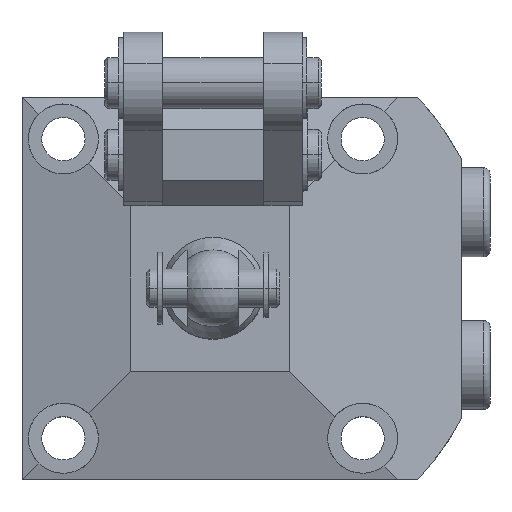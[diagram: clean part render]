
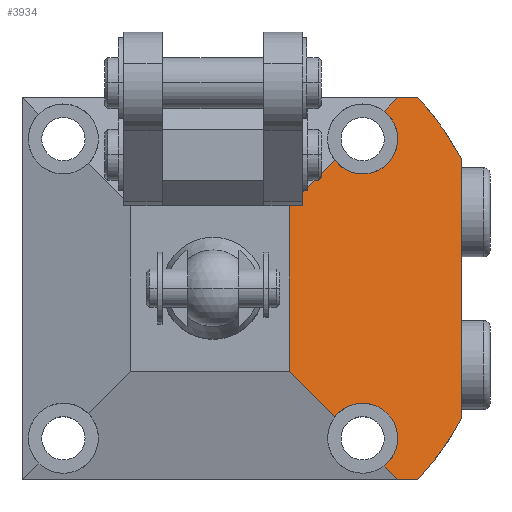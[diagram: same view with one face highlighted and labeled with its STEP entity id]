
A CAD part, top view. The second image highlights one B-rep face of the part: STEP entity #3934.
In plain terms, the highlighted planar face has unit normal (0.259, 0, 0.966).
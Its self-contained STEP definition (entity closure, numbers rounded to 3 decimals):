
#102 = CARTESIAN_POINT ( 'NONE',  ( 19.143, 20.143, 65.086 ) ) ;
#174 = CARTESIAN_POINT ( 'NONE',  ( 26.857, -27.857, 63.019 ) ) ;
#240 = VECTOR ( 'NONE', #4267, 1000. ) ;
#319 = VERTEX_POINT ( 'NONE', #4156 ) ;
#330 = VECTOR ( 'NONE', #992, 1000. ) ;
#368 = CARTESIAN_POINT ( 'NONE',  ( 23.007, -15.128, 64.051 ) ) ;
#545 = CARTESIAN_POINT ( 'NONE',  ( 39., 30.001, 59.765 ) ) ;
#558 = LINE ( 'NONE', #5487, #3669 ) ;
#561 = CARTESIAN_POINT ( 'NONE',  ( 39., 30.001, 59.765 ) ) ;
#569 = DIRECTION ( 'NONE',  ( -0.695, 0.695, 0.186 ) ) ;
#570 = CARTESIAN_POINT ( 'NONE',  ( 37.169, 23.878, 60.256 ) ) ;
#597 = LINE ( 'NONE', #5565, #7040 ) ;
#653 = EDGE_CURVE ( 'NONE', #319, #3698, #674, .T. ) ;
#674 =( BOUNDED_CURVE ( )  B_SPLINE_CURVE ( 3, ( #7845, #368, #2225, #5960 ),
 .UNSPECIFIED., .F., .F. ) 
 B_SPLINE_CURVE_WITH_KNOTS ( ( 4, 4 ),
 ( 0.656, 3.142 ),
 .UNSPECIFIED. ) 
 CURVE ( )  GEOMETRIC_REPRESENTATION_ITEM ( )  RATIONAL_B_SPLINE_CURVE ( ( 1., 0.548, 0.548, 1. ) ) 
 REPRESENTATION_ITEM ( '' )  );
#677 = EDGE_CURVE ( 'NONE', #2290, #6574, #6582, .T. ) ;
#792 = VERTEX_POINT ( 'NONE', #5168 ) ;
#807 = EDGE_CURVE ( 'NONE', #1126, #4416, #2494, .T. ) ;
#990 = AXIS2_PLACEMENT_3D ( 'NONE', #545, #6152, #2417 ) ;
#992 = DIRECTION ( 'NONE',  ( -0.966, 0., 0.259 ) ) ;
#1007 = VERTEX_POINT ( 'NONE', #6715 ) ;
#1033 = ORIENTED_EDGE ( 'NONE', *, *, #5558, .T. ) ;
#1075 = ORIENTED_EDGE ( 'NONE', *, *, #2785, .T. ) ;
#1126 = VERTEX_POINT ( 'NONE', #7938 ) ;
#1241 = VECTOR ( 'NONE', #3735, 1000. ) ;
#1327 = ORIENTED_EDGE ( 'NONE', *, *, #6503, .T. ) ;
#1340 = CARTESIAN_POINT ( 'NONE',  ( 29., -30., 62.445 ) ) ;
#1418 = CARTESIAN_POINT ( 'NONE',  ( 32.187, -30., 61.591 ) ) ;
#1518 = VERTEX_POINT ( 'NONE', #1798 ) ;
#1583 = VECTOR ( 'NONE', #4983, 1000. ) ;
#1613 = ORIENTED_EDGE ( 'NONE', *, *, #6916, .F. ) ;
#1798 = CARTESIAN_POINT ( 'NONE',  ( 19.143, 20.143, 65.086 ) ) ;
#1836 = FACE_OUTER_BOUND ( 'NONE', #5481, .T. ) ;
#1896 = ORIENTED_EDGE ( 'NONE', *, *, #7749, .T. ) ;
#1973 = LINE ( 'NONE', #6821, #6762 ) ;
#2031 = CARTESIAN_POINT ( 'NONE',  ( 37.169, -23.878, 60.256 ) ) ;
#2097 = EDGE_CURVE ( 'NONE', #319, #1007, #1973, .T. ) ;
#2135 = EDGE_CURVE ( 'NONE', #6574, #7476, #6564, .T. ) ;
#2225 = CARTESIAN_POINT ( 'NONE',  ( 29., -17.169, 62.445 ) ) ;
#2290 = VERTEX_POINT ( 'NONE', #6390 ) ;
#2307 = ORIENTED_EDGE ( 'NONE', *, *, #6179, .T. ) ;
#2333 = DIRECTION ( 'NONE',  ( -0.695, -0.695, 0.186 ) ) ;
#2417 = DIRECTION ( 'NONE',  ( -0.966, 0., 0.259 ) ) ;
#2494 =( BOUNDED_CURVE ( )  B_SPLINE_CURVE ( 3, ( #1418, #4510, #2031, #3874 ),
 .UNSPECIFIED., .F., .F. ) 
 B_SPLINE_CURVE_WITH_KNOTS ( ( 4, 4 ),
 ( 2.391, 2.66 ),
 .UNSPECIFIED. ) 
 CURVE ( )  GEOMETRIC_REPRESENTATION_ITEM ( )  RATIONAL_B_SPLINE_CURVE ( ( 1., 0.994, 0.994, 1. ) ) 
 REPRESENTATION_ITEM ( '' )  );
#2601 = CARTESIAN_POINT ( 'NONE',  ( 29., 17.169, 62.445 ) ) ;
#2650 = CARTESIAN_POINT ( 'NONE',  ( 29., 23.5, 62.445 ) ) ;
#2661 = CARTESIAN_POINT ( 'NONE',  ( 29., -23.5, 62.445 ) ) ;
#2785 = EDGE_CURVE ( 'NONE', #5172, #1007, #597, .T. ) ;
#2881 = ORIENTED_EDGE ( 'NONE', *, *, #807, .T. ) ;
#2971 = CARTESIAN_POINT ( 'NONE',  ( 34.174, 35.174, 61.059 ) ) ;
#3041 = CARTESIAN_POINT ( 'NONE',  ( 26.857, 27.857, 63.019 ) ) ;
#3157 = ORIENTED_EDGE ( 'NONE', *, *, #677, .T. ) ;
#3172 = ORIENTED_EDGE ( 'NONE', *, *, #5715, .F. ) ;
#3208 = CARTESIAN_POINT ( 'NONE',  ( 29., 23.5, 62.445 ) ) ;
#3346 =( BOUNDED_CURVE ( )  B_SPLINE_CURVE ( 3, ( #2661, #6386, #3894, #174 ),
 .UNSPECIFIED., .F., .F. ) 
 B_SPLINE_CURVE_WITH_KNOTS ( ( 4, 4 ),
 ( 3.142, 4.056 ),
 .UNSPECIFIED. ) 
 CURVE ( )  GEOMETRIC_REPRESENTATION_ITEM ( )  RATIONAL_B_SPLINE_CURVE ( ( 1., 0.932, 0.932, 1. ) ) 
 REPRESENTATION_ITEM ( '' )  );
#3467 = LINE ( 'NONE', #2971, #6416 ) ;
#3669 = VECTOR ( 'NONE', #4241, 1000. ) ;
#3693 = CARTESIAN_POINT ( 'NONE',  ( 32.187, 30., 61.591 ) ) ;
#3698 = VERTEX_POINT ( 'NONE', #5943 ) ;
#3735 = DIRECTION ( 'NONE',  ( -0.695, 0.695, 0.186 ) ) ;
#3753 = LINE ( 'NONE', #561, #240 ) ;
#3841 = CARTESIAN_POINT ( 'NONE',  ( 23.007, 15.128, 64.051 ) ) ;
#3874 = CARTESIAN_POINT ( 'NONE',  ( 39., -20.372, 59.765 ) ) ;
#3894 = CARTESIAN_POINT ( 'NONE',  ( 28.233, -26.796, 62.65 ) ) ;
#3934 = ADVANCED_FACE ( 'NONE', ( #1836 ), #4249, .F. ) ;
#3939 =( BOUNDED_CURVE ( )  B_SPLINE_CURVE ( 3, ( #5542, #570, #7449, #3693 ),
 .UNSPECIFIED., .F., .F. ) 
 B_SPLINE_CURVE_WITH_KNOTS ( ( 4, 4 ),
 ( 3.623, 3.892 ),
 .UNSPECIFIED. ) 
 CURVE ( )  GEOMETRIC_REPRESENTATION_ITEM ( )  RATIONAL_B_SPLINE_CURVE ( ( 1., 0.994, 0.994, 1. ) ) 
 REPRESENTATION_ITEM ( '' )  );
#3957 = EDGE_CURVE ( 'NONE', #7476, #7142, #7462, .T. ) ;
#4118 = VERTEX_POINT ( 'NONE', #1340 ) ;
#4156 = CARTESIAN_POINT ( 'NONE',  ( 19.143, -20.143, 65.086 ) ) ;
#4172 = CARTESIAN_POINT ( 'NONE',  ( 26.857, 27.857, 63.019 ) ) ;
#4241 = DIRECTION ( 'NONE',  ( 0.966, 0., -0.259 ) ) ;
#4249 = PLANE ( 'NONE',  #990 ) ;
#4267 = DIRECTION ( 'NONE',  ( 0., -1., 0. ) ) ;
#4270 = CARTESIAN_POINT ( 'NONE',  ( 29., 23.5, 62.445 ) ) ;
#4352 = CARTESIAN_POINT ( 'NONE',  ( 34.174, 35.174, 61.059 ) ) ;
#4358 = CARTESIAN_POINT ( 'NONE',  ( 25.033, -26.033, 63.508 ) ) ;
#4416 = VERTEX_POINT ( 'NONE', #5991 ) ;
#4510 = CARTESIAN_POINT ( 'NONE',  ( 34.884, -27.106, 60.868 ) ) ;
#4720 = ORIENTED_EDGE ( 'NONE', *, *, #2135, .T. ) ;
#4801 = VERTEX_POINT ( 'NONE', #5754 ) ;
#4857 = CARTESIAN_POINT ( 'NONE',  ( 12., 13., 67. ) ) ;
#4983 = DIRECTION ( 'NONE',  ( -0.695, -0.695, 0.186 ) ) ;
#5168 = CARTESIAN_POINT ( 'NONE',  ( 26.857, -27.857, 63.019 ) ) ;
#5172 = VERTEX_POINT ( 'NONE', #4857 ) ;
#5251 = EDGE_CURVE ( 'NONE', #4801, #2290, #3939, .T. ) ;
#5252 = CARTESIAN_POINT ( 'NONE',  ( 29., 30., 62.445 ) ) ;
#5481 = EDGE_LOOP ( 'NONE', ( #3157, #4720, #6395, #1896, #2307, #1075, #7807, #6162, #1327, #3172, #1033, #2881, #1613, #6598 ) ) ;
#5487 = CARTESIAN_POINT ( 'NONE',  ( 39., -30., 59.765 ) ) ;
#5542 = CARTESIAN_POINT ( 'NONE',  ( 39., 20.372, 59.765 ) ) ;
#5558 = EDGE_CURVE ( 'NONE', #4118, #1126, #558, .T. ) ;
#5565 = CARTESIAN_POINT ( 'NONE',  ( 12., 30.001, 67. ) ) ;
#5715 = EDGE_CURVE ( 'NONE', #4118, #792, #7875, .T. ) ;
#5754 = CARTESIAN_POINT ( 'NONE',  ( 39., 20.372, 59.765 ) ) ;
#5943 = CARTESIAN_POINT ( 'NONE',  ( 29., -23.5, 62.445 ) ) ;
#5960 = CARTESIAN_POINT ( 'NONE',  ( 29., -23.5, 62.445 ) ) ;
#5991 = CARTESIAN_POINT ( 'NONE',  ( 39., -20.372, 59.765 ) ) ;
#6152 = DIRECTION ( 'NONE',  ( -0.259, 0., -0.966 ) ) ;
#6162 = ORIENTED_EDGE ( 'NONE', *, *, #653, .T. ) ;
#6179 = EDGE_CURVE ( 'NONE', #1518, #5172, #3467, .T. ) ;
#6386 = CARTESIAN_POINT ( 'NONE',  ( 29., -25.237, 62.445 ) ) ;
#6390 = CARTESIAN_POINT ( 'NONE',  ( 32.187, 30., 61.591 ) ) ;
#6395 = ORIENTED_EDGE ( 'NONE', *, *, #3957, .T. ) ;
#6416 = VECTOR ( 'NONE', #2333, 1000. ) ;
#6503 = EDGE_CURVE ( 'NONE', #3698, #792, #3346, .T. ) ;
#6564 = LINE ( 'NONE', #4352, #1583 ) ;
#6574 = VERTEX_POINT ( 'NONE', #5252 ) ;
#6582 = LINE ( 'NONE', #7196, #330 ) ;
#6598 = ORIENTED_EDGE ( 'NONE', *, *, #5251, .T. ) ;
#6715 = CARTESIAN_POINT ( 'NONE',  ( 12., -13., 67. ) ) ;
#6762 = VECTOR ( 'NONE', #569, 1000. ) ;
#6795 = CARTESIAN_POINT ( 'NONE',  ( 28.233, 26.796, 62.65 ) ) ;
#6821 = CARTESIAN_POINT ( 'NONE',  ( 25.033, -26.033, 63.508 ) ) ;
#6916 = EDGE_CURVE ( 'NONE', #4801, #4416, #3753, .T. ) ;
#7040 = VECTOR ( 'NONE', #8069, 1000. ) ;
#7104 =( BOUNDED_CURVE ( )  B_SPLINE_CURVE ( 3, ( #3208, #2601, #3841, #102 ),
 .UNSPECIFIED., .F., .T. ) 
 B_SPLINE_CURVE_WITH_KNOTS ( ( 4, 4 ),
 ( 3.142, 5.627 ),
 .UNSPECIFIED. ) 
 CURVE ( )  GEOMETRIC_REPRESENTATION_ITEM ( )  RATIONAL_B_SPLINE_CURVE ( ( 1., 0.548, 0.548, 1. ) ) 
 REPRESENTATION_ITEM ( '' )  );
#7142 = VERTEX_POINT ( 'NONE', #2650 ) ;
#7196 = CARTESIAN_POINT ( 'NONE',  ( 39., 30., 59.765 ) ) ;
#7449 = CARTESIAN_POINT ( 'NONE',  ( 34.884, 27.106, 60.868 ) ) ;
#7462 =( BOUNDED_CURVE ( )  B_SPLINE_CURVE ( 3, ( #3041, #6795, #8050, #4270 ),
 .UNSPECIFIED., .F., .F. ) 
 B_SPLINE_CURVE_WITH_KNOTS ( ( 4, 4 ),
 ( 2.227, 3.142 ),
 .UNSPECIFIED. ) 
 CURVE ( )  GEOMETRIC_REPRESENTATION_ITEM ( )  RATIONAL_B_SPLINE_CURVE ( ( 1., 0.932, 0.932, 1. ) ) 
 REPRESENTATION_ITEM ( '' )  );
#7476 = VERTEX_POINT ( 'NONE', #4172 ) ;
#7749 = EDGE_CURVE ( 'NONE', #7142, #1518, #7104, .T. ) ;
#7807 = ORIENTED_EDGE ( 'NONE', *, *, #2097, .F. ) ;
#7845 = CARTESIAN_POINT ( 'NONE',  ( 19.143, -20.143, 65.086 ) ) ;
#7875 = LINE ( 'NONE', #4358, #1241 ) ;
#7938 = CARTESIAN_POINT ( 'NONE',  ( 32.187, -30., 61.591 ) ) ;
#8050 = CARTESIAN_POINT ( 'NONE',  ( 29., 25.237, 62.445 ) ) ;
#8069 = DIRECTION ( 'NONE',  ( 0., -1., 0. ) ) ;
